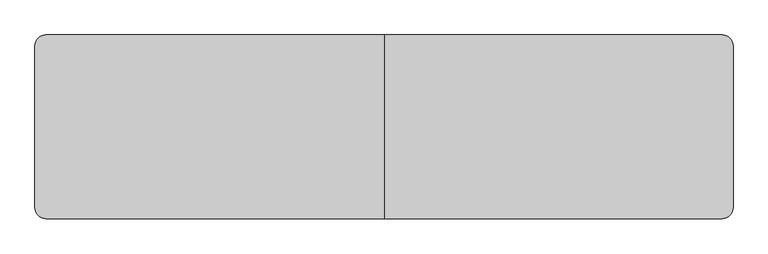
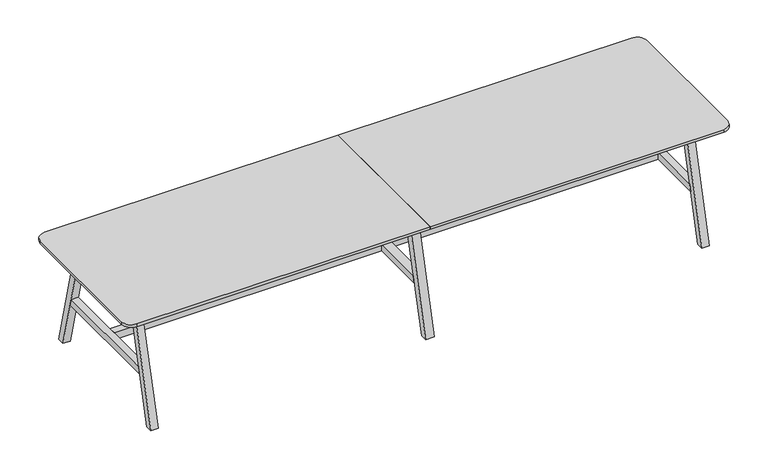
"""IFC4 building model written with IfcOpenShell, lengths in millimetres: furniture geometry, BDG_BossDesign_Tbls_AgentTables6Legs : AGE-DT-6L-3800-1000-3D."""

from ifc_helpers import new_model, si_unit, point, frame, frame_2d, origin, place, context, project, spatial, polyline, circle_curve, trimmed, segment, composite_curve, outline, extrude, source, transform, mapped, element, save


def furniture_4ba8128c(model_context):
    return source(origin(), model_context, "Body", "SweptSolid", [
        extrude(outline(polyline([(500.0, 0.0), (454.9999949, 0.0), (285.5, 660.0), (330.5000051, 660.0), (500.0, 0.0)])), frame((-27.5, 0.0, 0.0), z_axis=(1.0, 0.0, 0.0), x_axis=(0.0, 1.0, 0.0)), (0.0, 0.0, 1.0), 55.0),
        extrude(outline(polyline([(-500.0, 0.0), (-330.5000051, 660.0), (-285.5, 660.0), (-454.9999949, 0.0), (-500.0, 0.0)])), frame((-27.5, 0.0, 0.0), z_axis=(1.0, 0.0, 0.0), x_axis=(0.0, 1.0, 0.0)), (0.0, 0.0, 1.0), 55.0),
        extrude(outline(polyline([(377.9545427, 300.0), (-377.9545427, 300.0), (-366.3977249, 345.0), (366.3977249, 345.0), (377.9545427, 300.0)])), frame((-27.5, 0.0, 0.0), z_axis=(1.0, 0.0, 0.0), x_axis=(0.0, 1.0, 0.0)), (0.0, 0.0, 1.0), 55.0),
        extrude(outline(composite_curve([segment(polyline([(0.0, 500.0), (0.0, -500.0), (-1840.0, -500.0)]), True, "CONTINUOUS"), segment(trimmed(circle_curve(frame_2d((-1840.0, -440.0)), 60.0), [point((-1840.0, -500.0))], [point((-1900.0, -440.0))], False, "CARTESIAN"), True, "CONTINUOUS"), segment(polyline([(-1900.0, -440.0), (-1900.0, 440.0)]), True, "CONTINUOUS"), segment(trimmed(circle_curve(frame_2d((-1840.0, 440.0)), 60.0), [point((-1900.0, 440.0))], [point((-1840.0, 500.0))], False, "CARTESIAN"), True, "CONTINUOUS"), segment(polyline([(-1840.0, 500.0), (0.0, 500.0)]), True, "CONTINUOUS")], self_intersect=False)), frame((0.0, 0.0, 722.0), z_axis=(0.0, 0.0, 1.0), x_axis=(1.0, 0.0, 0.0)), (0.0, 0.0, 1.0), 18.0),
        extrude(outline(polyline([(-366.3977249, 345.0), (366.3977249, 345.0), (377.9545427, 300.0), (-377.9545427, 300.0), (-366.3977249, 345.0)])), frame((1705.0, 0.0, 0.0), z_axis=(1.0, 0.0, 0.0), x_axis=(0.0, 1.0, 0.0)), (0.0, 0.0, 1.0), 45.0),
        extrude(outline(polyline([(500.0, 0.0), (454.9999949, 0.0), (285.5, 660.0), (330.5000051, 660.0), (500.0, 0.0)])), frame((-1750.0, 0.0, 0.0), z_axis=(1.0, 0.0, 0.0), x_axis=(0.0, 1.0, 0.0)), (0.0, 0.0, 1.0), 45.0),
        extrude(outline(polyline([(-500.0, 0.0), (-330.5000051, 660.0), (-285.5, 660.0), (-454.9999949, 0.0), (-500.0, 0.0)])), frame((-1750.0, 0.0, 0.0), z_axis=(1.0, 0.0, 0.0), x_axis=(0.0, 1.0, 0.0)), (0.0, 0.0, 1.0), 45.0),
        extrude(outline(polyline([(-366.3977249, 345.0), (366.3977249, 345.0), (377.9545427, 300.0), (-377.9545427, 300.0), (-366.3977249, 345.0)])), frame((-1750.0, 0.0, 0.0), z_axis=(1.0, 0.0, 0.0), x_axis=(0.0, 1.0, 0.0)), (0.0, 0.0, 1.0), 45.0),
        extrude(outline(polyline([(-326.6006165, 634.973938), (-304.2770691, 722.0), (-279.5, 722.0), (-301.8235474, 634.973938), (-326.6006165, 634.973938)])), frame((-1705.0, 0.0, 0.0), z_axis=(1.0, 0.0, 0.0), x_axis=(0.0, 1.0, 0.0)), (0.0, 0.0, 1.0), 3410.0),
        extrude(outline(polyline([(326.6006165, 634.973938), (301.8235474, 634.973938), (279.5, 722.0), (304.2770691, 722.0), (326.6006165, 634.973938)])), frame((-1705.0, 0.0, 0.0), z_axis=(1.0, 0.0, 0.0), x_axis=(0.0, 1.0, 0.0)), (0.0, 0.0, 1.0), 3410.0),
        extrude(outline(polyline([(499.7999878, 0.0), (454.7999827, 0.0), (285.5, 660.0), (330.5000051, 660.0), (499.7999878, 0.0)])), frame((1705.0, 0.0, 0.0), z_axis=(1.0, 0.0, 0.0), x_axis=(0.0, 1.0, 0.0)), (0.0, 0.0, 1.0), 45.0),
        extrude(outline(polyline([(-499.7999878, 0.0), (-330.5000051, 660.0), (-285.5, 660.0), (-454.7999827, 0.0), (-499.7999878, 0.0)])), frame((1705.0, 0.0, 0.0), z_axis=(1.0, 0.0, 0.0), x_axis=(0.0, 1.0, 0.0)), (0.0, 0.0, 1.0), 45.0),
        extrude(outline(polyline([(-27.5, 22.5000305), (-27.5, -22.5000305), (-1705.0, -22.5000305), (-1705.0, 22.5000305), (-27.5, 22.5000305)])), frame((0.0, 0.0, 300.0), z_axis=(0.0, 0.0, 1.0), x_axis=(1.0, 0.0, 0.0)), (0.0, 0.0, 1.0), 45.0),
        extrude(outline(polyline([(27.5, -22.5000305), (27.5, 22.5000305), (1705.0, 22.5000305), (1705.0, -22.5000305), (27.5, -22.5000305)])), frame((0.0, 0.0, 300.0), z_axis=(0.0, 0.0, 1.0), x_axis=(1.0, 0.0, 0.0)), (0.0, 0.0, 1.0), 45.0),
        extrude(outline(composite_curve([segment(trimmed(circle_curve(frame_2d((1840.0, 440.0)), 60.0), [point((1840.0, 500.0))], [point((1900.0, 440.0))], False, "CARTESIAN"), True, "CONTINUOUS"), segment(polyline([(1900.0, 440.0), (1900.0, -440.0)]), True, "CONTINUOUS"), segment(trimmed(circle_curve(frame_2d((1840.0, -440.0)), 60.0), [point((1900.0, -440.0))], [point((1840.0, -500.0))], False, "CARTESIAN"), True, "CONTINUOUS"), segment(polyline([(1840.0, -500.0), (0.0, -500.0), (0.0, 500.0), (1840.0, 500.0)]), True, "CONTINUOUS")], self_intersect=False)), frame((0.0, 0.0, 722.0), z_axis=(0.0, 0.0, 1.0), x_axis=(1.0, 0.0, 0.0)), (0.0, 0.0, 1.0), 18.0),
    ])


if __name__ == "__main__":
    model = new_model("IFC4")
    model_context = context("Model", 3, world=origin())
    ifc_project = project(units=[si_unit("LENGTHUNIT", "METRE", prefix="MILLI")], contexts=[model_context])
    site = spatial("IfcSite", under=ifc_project)
    building = spatial("IfcBuilding", under=site)
    placement = place(None, origin())
    furniture_shape = furniture_4ba8128c(model_context)
    element("IfcFurniture", 1, ObjectType="BDG_BossDesign_Tbls_AgentTables6Legs : AGE-DT-6L-3800-1000-3D", at=placement, inside=building, context=model_context, shape_type="MappedRepresentation", body=[
        mapped(furniture_shape, transform((0.0, 0.0, 0.0), x_axis=(1.0, 0.0, 0.0), y_axis=(0.0, 1.0, 0.0), z_axis=(0.0, 0.0, 1.0))),
    ])
    save(model, "model.ifc")
